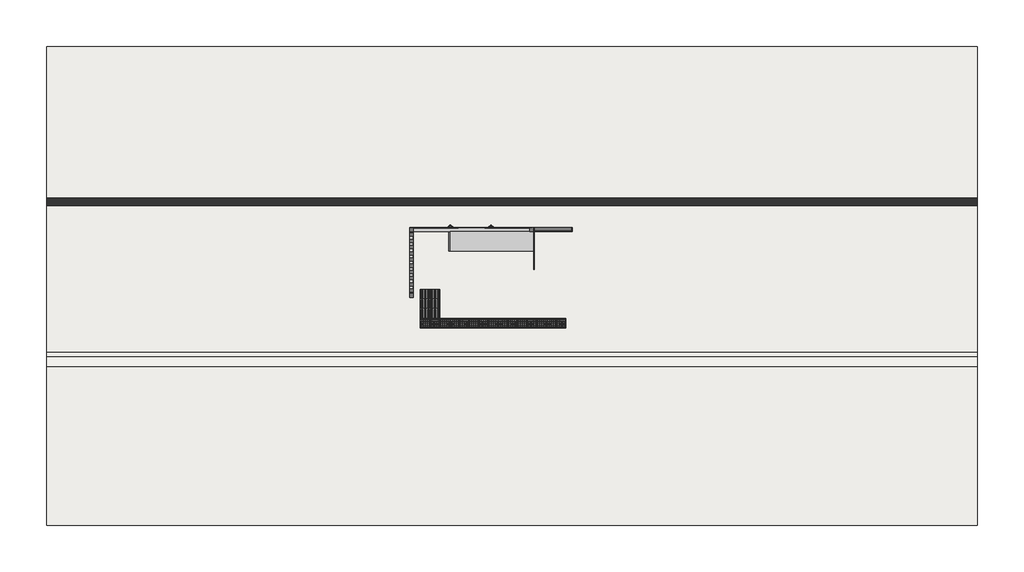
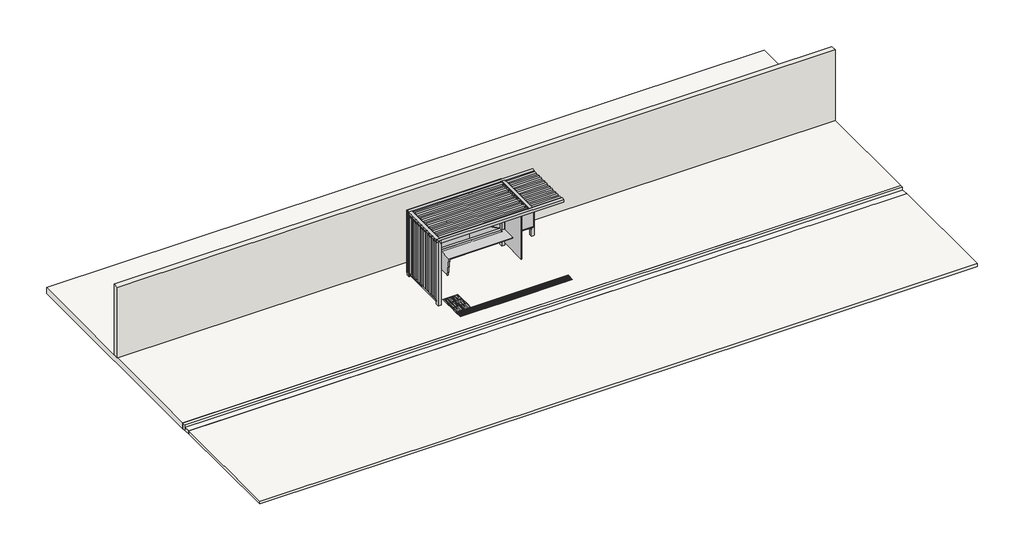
# One storey, incomplete: 22 proxies, 4 slabs, 1 wall.
"""IFC4 building model written with IfcOpenShell, lengths in millimetres."""

from ifc_helpers import new_model, si_unit, frame, origin, origin_with_axes, place, context, project, spatial, polyline, outline, extrude, transform, mapped, element, save
from components import generic_models_ae14a86f, generic_models_1a11b9a9, generic_models_5568da9d, generic_models_c613b4f9, generic_models_4e4e8674, generic_models_d4dd3fca

model = new_model("IFC4")

# Units and contexts
model_context = context("Model", 3, world=origin())
ifc_project = project(units=[si_unit("LENGTHUNIT", "METRE", prefix="MILLI")], contexts=[model_context])

# Site, building, storey
site = spatial("IfcSite", under=ifc_project)
building = spatial("IfcBuilding", under=site)
storey = spatial("IfcBuildingStorey", under=building, Name="Seção 1", Elevation=0.0)

# Proxies
placement = place(None, origin())
generic_models_shape = generic_models_ae14a86f(model_context)
generic_models_2_shape = generic_models_1a11b9a9(model_context)
generic_models_3_shape = generic_models_5568da9d(model_context)
generic_models_4_shape = generic_models_c613b4f9(model_context)
element("IfcBuildingElementProxy", 1, Name="Ponto de ônibus_final : Ponto de ônibus_final", ObjectType="Ponto de ônibus_final : Ponto de ônibus_final", at=placement, inside=storey, context=model_context, shape_type="MappedRepresentation", body=[
    mapped(generic_models_shape, transform((-2348.9204407, -307.4924721, 0.0), x_axis=(1.0, 0.0, 0.0), y_axis=(0.0, 1.0, 0.0), z_axis=(0.0, 0.0, 1.0))),
    mapped(generic_models_2_shape, transform((-2348.9204407, -307.4924721, 0.0), x_axis=(1.0, 0.0, 0.0), y_axis=(0.0, 1.0, 0.0), z_axis=(0.0, 0.0, 1.0))),
    mapped(generic_models_3_shape, transform((-2348.9204407, -307.4924721, 0.0), x_axis=(1.0, 0.0, 0.0), y_axis=(0.0, 1.0, 0.0), z_axis=(0.0, 0.0, 1.0))),
    mapped(generic_models_4_shape, transform((-2348.9204407, -307.4924721, 0.0), x_axis=(1.0, 0.0, 0.0), y_axis=(0.0, 1.0, 0.0), z_axis=(0.0, 0.0, 1.0))),
])
generic_models_5_shape = generic_models_4e4e8674(model_context)
element("IfcBuildingElementProxy", 2, Name="Sinalização tátil direcional - NBR 9050 : Sinalização tátil direcional - NBR 9050", ObjectType="Sinalização tátil direcional - NBR 9050 : Sinalização tátil direcional - NBR 9050", at=placement, inside=storey, context=model_context, shape_type="MappedRepresentation", body=[
    mapped(generic_models_5_shape, transform((-4042.5499486, -2521.097393, 0.0), x_axis=(1.0, 0.0, 0.0), y_axis=(0.0, 1.0, 0.0), z_axis=(0.0, 0.0, 1.0))),
])
element("IfcBuildingElementProxy", 3, Name="Sinalização tátil direcional - NBR 9050 : Sinalização tátil direcional - NBR 9050", ObjectType="Sinalização tátil direcional - NBR 9050 : Sinalização tátil direcional - NBR 9050", at=placement, inside=storey, context=model_context, shape_type="MappedRepresentation", body=[
    mapped(generic_models_5_shape, transform((-3792.5499486, -2521.097393, 0.0), x_axis=(1.0, 0.0, 0.0), y_axis=(0.0, 1.0, 0.0), z_axis=(0.0, 0.0, 1.0))),
])
element("IfcBuildingElementProxy", 4, Name="Sinalização tátil direcional - NBR 9050 : Sinalização tátil direcional - NBR 9050", ObjectType="Sinalização tátil direcional - NBR 9050 : Sinalização tátil direcional - NBR 9050", at=placement, inside=storey, context=model_context, shape_type="MappedRepresentation", body=[
    mapped(generic_models_5_shape, transform((-3792.5499486, -2271.097393, 0.0), x_axis=(1.0, 0.0, 0.0), y_axis=(0.0, 1.0, 0.0), z_axis=(0.0, 0.0, 1.0))),
])
element("IfcBuildingElementProxy", 5, Name="Sinalização tátil direcional - NBR 9050 : Sinalização tátil direcional - NBR 9050", ObjectType="Sinalização tátil direcional - NBR 9050 : Sinalização tátil direcional - NBR 9050", at=placement, inside=storey, context=model_context, shape_type="MappedRepresentation", body=[
    mapped(generic_models_5_shape, transform((-4042.5499486, -2271.097393, 0.0), x_axis=(1.0, 0.0, 0.0), y_axis=(0.0, 1.0, 0.0), z_axis=(0.0, 0.0, 1.0))),
])
element("IfcBuildingElementProxy", 6, Name="Sinalização tátil direcional - NBR 9050 : Sinalização tátil direcional - NBR 9050", ObjectType="Sinalização tátil direcional - NBR 9050 : Sinalização tátil direcional - NBR 9050", at=placement, inside=storey, context=model_context, shape_type="MappedRepresentation", body=[
    mapped(generic_models_5_shape, transform((-3792.5499486, -2021.097393, 0.0), x_axis=(1.0, 0.0, 0.0), y_axis=(0.0, 1.0, 0.0), z_axis=(0.0, 0.0, 1.0))),
])
element("IfcBuildingElementProxy", 7, Name="Sinalização tátil direcional - NBR 9050 : Sinalização tátil direcional - NBR 9050", ObjectType="Sinalização tátil direcional - NBR 9050 : Sinalização tátil direcional - NBR 9050", at=placement, inside=storey, context=model_context, shape_type="MappedRepresentation", body=[
    mapped(generic_models_5_shape, transform((-4042.5499486, -2021.097393, 0.0), x_axis=(1.0, 0.0, 0.0), y_axis=(0.0, 1.0, 0.0), z_axis=(0.0, 0.0, 1.0))),
])
generic_models_6_shape = generic_models_d4dd3fca(model_context)
element("IfcBuildingElementProxy", 8, Name="Sinalização tátil - NBR 9050 : Sinalização tátil - NBR 9050", ObjectType="Sinalização tátil - NBR 9050 : Sinalização tátil - NBR 9050", at=placement, inside=storey, context=model_context, shape_type="MappedRepresentation", body=[
    mapped(generic_models_6_shape, transform((-4042.5499486, -2771.097393, 0.0), x_axis=(1.0, 0.0, 0.0), y_axis=(0.0, 1.0, 0.0), z_axis=(0.0, 0.0, 1.0))),
])
element("IfcBuildingElementProxy", 9, Name="Sinalização tátil - NBR 9050 : Sinalização tátil - NBR 9050", ObjectType="Sinalização tátil - NBR 9050 : Sinalização tátil - NBR 9050", at=placement, inside=storey, context=model_context, shape_type="MappedRepresentation", body=[
    mapped(generic_models_6_shape, transform((-3792.5499486, -2771.097393, 0.0), x_axis=(1.0, 0.0, 0.0), y_axis=(0.0, 1.0, 0.0), z_axis=(0.0, 0.0, 1.0))),
])
element("IfcBuildingElementProxy", 10, Name="Sinalização tátil - NBR 9050 : Sinalização tátil - NBR 9050", ObjectType="Sinalização tátil - NBR 9050 : Sinalização tátil - NBR 9050", at=placement, inside=storey, context=model_context, shape_type="MappedRepresentation", body=[
    mapped(generic_models_6_shape, transform((-3542.5499486, -2771.097393, 0.0), x_axis=(1.0, 0.0, 0.0), y_axis=(0.0, 1.0, 0.0), z_axis=(0.0, 0.0, 1.0))),
])
element("IfcBuildingElementProxy", 11, Name="Sinalização tátil - NBR 9050 : Sinalização tátil - NBR 9050", ObjectType="Sinalização tátil - NBR 9050 : Sinalização tátil - NBR 9050", at=placement, inside=storey, context=model_context, shape_type="MappedRepresentation", body=[
    mapped(generic_models_6_shape, transform((-3292.5499486, -2771.097393, 0.0), x_axis=(1.0, 0.0, 0.0), y_axis=(0.0, 1.0, 0.0), z_axis=(0.0, 0.0, 1.0))),
])
element("IfcBuildingElementProxy", 12, Name="Sinalização tátil - NBR 9050 : Sinalização tátil - NBR 9050", ObjectType="Sinalização tátil - NBR 9050 : Sinalização tátil - NBR 9050", at=placement, inside=storey, context=model_context, shape_type="MappedRepresentation", body=[
    mapped(generic_models_6_shape, transform((-3042.5499486, -2771.097393, 0.0), x_axis=(1.0, 0.0, 0.0), y_axis=(0.0, 1.0, 0.0), z_axis=(0.0, 0.0, 1.0))),
])
element("IfcBuildingElementProxy", 13, Name="Sinalização tátil - NBR 9050 : Sinalização tátil - NBR 9050", ObjectType="Sinalização tátil - NBR 9050 : Sinalização tátil - NBR 9050", at=placement, inside=storey, context=model_context, shape_type="MappedRepresentation", body=[
    mapped(generic_models_6_shape, transform((-2792.5499486, -2771.097393, 0.0), x_axis=(1.0, 0.0, 0.0), y_axis=(0.0, 1.0, 0.0), z_axis=(0.0, 0.0, 1.0))),
])
element("IfcBuildingElementProxy", 14, Name="Sinalização tátil - NBR 9050 : Sinalização tátil - NBR 9050", ObjectType="Sinalização tátil - NBR 9050 : Sinalização tátil - NBR 9050", at=placement, inside=storey, context=model_context, shape_type="MappedRepresentation", body=[
    mapped(generic_models_6_shape, transform((-2542.5499486, -2771.097393, 0.0), x_axis=(1.0, 0.0, 0.0), y_axis=(0.0, 1.0, 0.0), z_axis=(0.0, 0.0, 1.0))),
])
element("IfcBuildingElementProxy", 15, Name="Sinalização tátil - NBR 9050 : Sinalização tátil - NBR 9050", ObjectType="Sinalização tátil - NBR 9050 : Sinalização tátil - NBR 9050", at=placement, inside=storey, context=model_context, shape_type="MappedRepresentation", body=[
    mapped(generic_models_6_shape, transform((-2292.5499486, -2771.097393, 0.0), x_axis=(1.0, 0.0, 0.0), y_axis=(0.0, 1.0, 0.0), z_axis=(0.0, 0.0, 1.0))),
])
element("IfcBuildingElementProxy", 16, Name="Sinalização tátil - NBR 9050 : Sinalização tátil - NBR 9050", ObjectType="Sinalização tátil - NBR 9050 : Sinalização tátil - NBR 9050", at=placement, inside=storey, context=model_context, shape_type="MappedRepresentation", body=[
    mapped(generic_models_6_shape, transform((-2042.5499486, -2771.097393, 0.0), x_axis=(1.0, 0.0, 0.0), y_axis=(0.0, 1.0, 0.0), z_axis=(0.0, 0.0, 1.0))),
])
element("IfcBuildingElementProxy", 17, Name="Sinalização tátil - NBR 9050 : Sinalização tátil - NBR 9050", ObjectType="Sinalização tátil - NBR 9050 : Sinalização tátil - NBR 9050", at=placement, inside=storey, context=model_context, shape_type="MappedRepresentation", body=[
    mapped(generic_models_6_shape, transform((-1792.5499486, -2771.097393, 0.0), x_axis=(1.0, 0.0, 0.0), y_axis=(0.0, 1.0, 0.0), z_axis=(0.0, 0.0, 1.0))),
])
element("IfcBuildingElementProxy", 18, Name="Sinalização tátil - NBR 9050 : Sinalização tátil - NBR 9050", ObjectType="Sinalização tátil - NBR 9050 : Sinalização tátil - NBR 9050", at=placement, inside=storey, context=model_context, shape_type="MappedRepresentation", body=[
    mapped(generic_models_6_shape, transform((-1542.5499486, -2771.097393, 0.0), x_axis=(1.0, 0.0, 0.0), y_axis=(0.0, 1.0, 0.0), z_axis=(0.0, 0.0, 1.0))),
])
element("IfcBuildingElementProxy", 19, Name="Sinalização tátil - NBR 9050 : Sinalização tátil - NBR 9050", ObjectType="Sinalização tátil - NBR 9050 : Sinalização tátil - NBR 9050", at=placement, inside=storey, context=model_context, shape_type="MappedRepresentation", body=[
    mapped(generic_models_6_shape, transform((-1292.5499486, -2771.097393, 0.0), x_axis=(1.0, 0.0, 0.0), y_axis=(0.0, 1.0, 0.0), z_axis=(0.0, 0.0, 1.0))),
])
element("IfcBuildingElementProxy", 20, Name="Sinalização tátil - NBR 9050 : Sinalização tátil - NBR 9050", ObjectType="Sinalização tátil - NBR 9050 : Sinalização tátil - NBR 9050", at=placement, inside=storey, context=model_context, shape_type="MappedRepresentation", body=[
    mapped(generic_models_6_shape, transform((-1042.5499486, -2771.097393, 0.0), x_axis=(1.0, 0.0, 0.0), y_axis=(0.0, 1.0, 0.0), z_axis=(0.0, 0.0, 1.0))),
])
element("IfcBuildingElementProxy", 21, Name="Sinalização tátil - NBR 9050 : Sinalização tátil - NBR 9050", ObjectType="Sinalização tátil - NBR 9050 : Sinalização tátil - NBR 9050", at=placement, inside=storey, context=model_context, shape_type="MappedRepresentation", body=[
    mapped(generic_models_6_shape, transform((-792.5499486, -2771.097393, 0.0), x_axis=(1.0, 0.0, 0.0), y_axis=(0.0, 1.0, 0.0), z_axis=(0.0, 0.0, 1.0))),
])
element("IfcBuildingElementProxy", 22, Name="Sinalização tátil - NBR 9050 : Sinalização tátil - NBR 9050", ObjectType="Sinalização tátil - NBR 9050 : Sinalização tátil - NBR 9050", at=placement, inside=storey, context=model_context, shape_type="MappedRepresentation", body=[
    mapped(generic_models_6_shape, transform((-542.5499486, -2771.097393, 0.0), x_axis=(1.0, 0.0, 0.0), y_axis=(0.0, 1.0, 0.0), z_axis=(0.0, 0.0, 1.0))),
])

# Slabs
element("IfcSlab", 23, ObjectType="Calçada 3", at=placement, inside=storey, context=model_context, shape_type="SweptSolid", body=[
    extrude(outline(polyline([(10192.6832172, 4369.9491291), (10192.6832172, -3530.0508709), (-13807.3167828, -3530.0508709), (-13807.3167828, 4369.9491291), (10192.6832172, 4369.9491291)])), frame((0.0, 0.0, -200.0), z_axis=(0.0, 0.0, 1.0), x_axis=(1.0, 0.0, 0.0)), (0.0, 0.0, 1.0), 200.0),
])
element("IfcSlab", 24, ObjectType="Guias", at=placement, inside=storey, context=model_context, shape_type="SweptSolid", body=[
    extrude(outline(polyline([(10192.6832172, -3530.0508709), (10192.6832172, -3630.0508709), (-13807.3167828, -3630.0508709), (-13807.3167828, -3530.0508709), (10192.6832172, -3530.0508709)])), frame((0.0, 0.0, -200.0), z_axis=(0.0, 0.0, 1.0), x_axis=(1.0, 0.0, 0.0)), (0.0, 0.0, 1.0), 200.0),
])
element("IfcSlab", 25, ObjectType="Sarjeta", at=placement, inside=storey, context=model_context, shape_type="SweptSolid", body=[
    extrude(outline(polyline([(-3630.0508709, -200.8109006), (-3880.8191084, -168.8109006), (-3880.8191084, -68.0), (-3630.0508709, -100.0), (-3630.0508709, -200.8109006)])), frame((-13807.3167828, 0.0, 0.0), z_axis=(1.0, 0.0, 0.0), x_axis=(0.0, 1.0, 0.0)), (0.0, 0.0, 1.0), 24000.0),
])
element("IfcSlab", 26, ObjectType="Asfalto", at=placement, inside=storey, context=model_context, shape_type="SweptSolid", body=[
    extrude(outline(polyline([(10192.6832172, -3880.8191084), (10192.6832172, -7981.8191084), (-13807.3167828, -7981.8191084), (-13807.3167828, -3880.8191084), (10192.6832172, -3880.8191084)])), frame((0.0, 0.0, -168.0), z_axis=(0.0, 0.0, 1.0), x_axis=(1.0, 0.0, 0.0)), (0.0, 0.0, 1.0), 100.0),
])

# Wall
element("IfcWall", 27, ObjectType="Muro externo 2", at=placement, inside=storey, context=model_context, shape_type="SweptSolid", body=[
    extrude(outline(polyline([(10192.6832172, 261.2820426), (-13807.3167828, 261.2820426), (-13807.3167828, 461.2820426), (10192.6832172, 461.2820426), (10192.6832172, 261.2820426)])), origin_with_axes(), (0.0, 0.0, 1.0), 2500.0),
])

save(model, "model.ifc")
